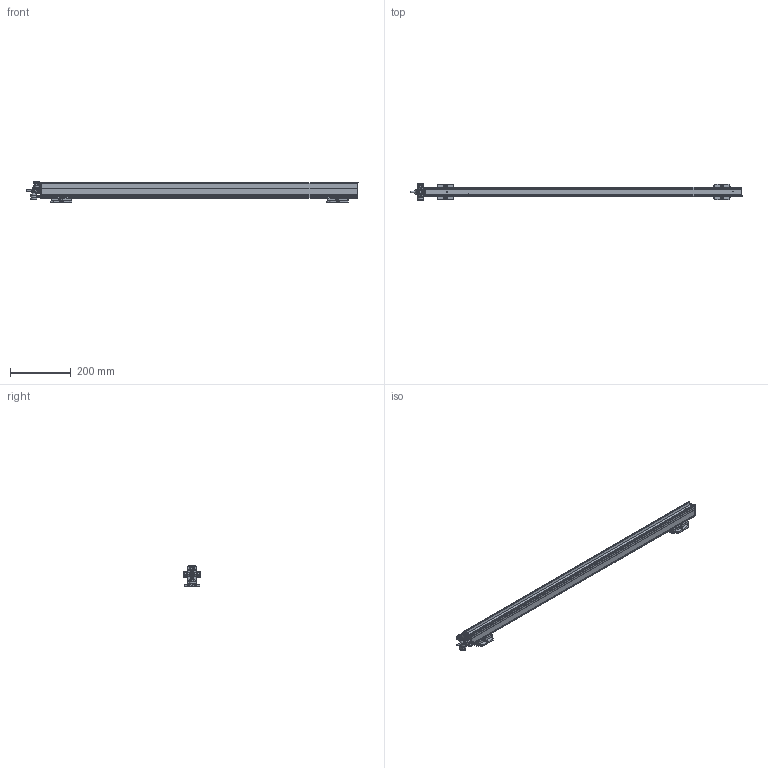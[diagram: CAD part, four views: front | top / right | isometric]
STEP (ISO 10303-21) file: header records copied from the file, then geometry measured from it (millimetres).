
FILE_DESCRIPTION(/* description */ (''),/* implementation_level */ '2;1');
FILE_NAME(/* name */ 'PERFORMAXEASYEX_0870_3D_GB',/* time_stamp */ '2017-05-31T09:47:17+02:00',/* author */ (''),/* organization */ (''),/* preprocessor_version */ 'ST-DEVELOPER v15.7',/* originating_system */ 'HiCAD 2015 2002.1 Build 408',/* authorisation */ '');
FILE_SCHEMA (('AUTOMOTIVE_DESIGN { 1 0 10303 214 1 1 1 1 }'));
Length unit declared in the file: millimetre
Products named in the file (57): Root; -_Performax (IQ) Easy Ex 0870 eff (Speed); -_LED; -_PROFILE; -_POTTING; -_CAP DE; -_CAP CE; -_CABLE; -_PIN; -_COVER; 4532000100_Mounting bracket bars; -_Side piece; -_Slide piece; -_Bracket small; DIN 13-M3; DIN 76-M3; 2047507823_PE connection; DIN 916-M4x20-45H_Set screws; GEWINDE; ISO 8738-4-160 HV_Washers for studs; ISO 4032-M4-10_Hexagon nuts; DIN 127-A 4-FSt_Washers; 2047493713_Cable exits; -_Exit K; -_Clip; -_Gland body; -_Exit S; -_Exit Q; -_Washer ø20mm, 5mm thick for corr. conduit (exit
 Q); -_Exit I; -_Exit U; -_Exit A; Thread_2
Assembly tree (56 placements, depth 5):
  Root
    -_Performax (IQ) Easy Ex 0870 eff (Speed)
      -_LED
      -_PROFILE
      -_POTTING
      -_CAP DE
      -_CAP CE
      -_CABLE
      -_PIN
      -_PIN
      -_COVER
      4532000100_Mounting bracket bars
        -_Side piece
        -_Side piece
        -_Slide piece
        -_Bracket small
          DIN 13-M3
          DIN 13-M3
          DIN 76-M3
          DIN 76-M3
      4532000100_Mounting bracket bars
        -_Side piece
        -_Side piece
        -_Slide piece
        -_Bracket small
          DIN 13-M3
          DIN 13-M3
          DIN 76-M3
          DIN 76-M3
      2047507823_PE connection
        DIN 916-M4x20-45H_Set screws
          GEWINDE
        ISO 8738-4-160 HV_Washers for studs
        ISO 4032-M4-10_Hexagon nuts
          GEWINDE
        DIN 127-A 4-FSt_Washers
        ISO 4032-M4-10_Hexagon nuts
          GEWINDE
      2047493713_Cable exits
        -_Exit K
          -_Clip
          -_Gland body
        -_Exit S
          -_Clip
          -_Gland body
        -_Exit Q
          -_Clip
          -_Washer ø20mm, 5mm thick for corr. conduit (exit
 Q)
          -_Gland body
        -_Exit I
          -_Clip
          -_Gland body
        -_Exit U
          -_Clip
          -_Gland body
        -_Exit A
          Thread_2
Bounding box: 1092.4 x 58.79 x 68.9 mm (x, y, z)
Volume: 1315491.9 mm3; surface area: 392920.7 mm2
Topology: 47 solids, 53 shells, 1941 faces, 5010 edges, 3074 vertices
Faces by surface type: plane 913, cylinder 739, torus 91, sphere 87, bspline 64, cone 47
Full cylindrical faces by diameter (mm): 2.387 x8, 3 x16, 3.141 x4, 4 x5, 4.3 x1, 5.4 x2, 5.5 x10, 8 x2, 11.3 x4, 12.5 x4, 13 x1, 14.6 x5, 15.1 x5, 18.4 x4, 20 x7, 20.2 x4
Entity records: 107117 total; most frequent: CARTESIAN_POINT 22020, DIRECTION 10074, PRESENTATION_STYLE_ASSIGNMENT 9495, OVER_RIDING_STYLED_ITEM 9449, DRAUGHTING_PRE_DEFINED_CURVE_FONT 9436, CURVE_STYLE 9436, ORIENTED_EDGE 9436, EDGE_CURVE 4718
